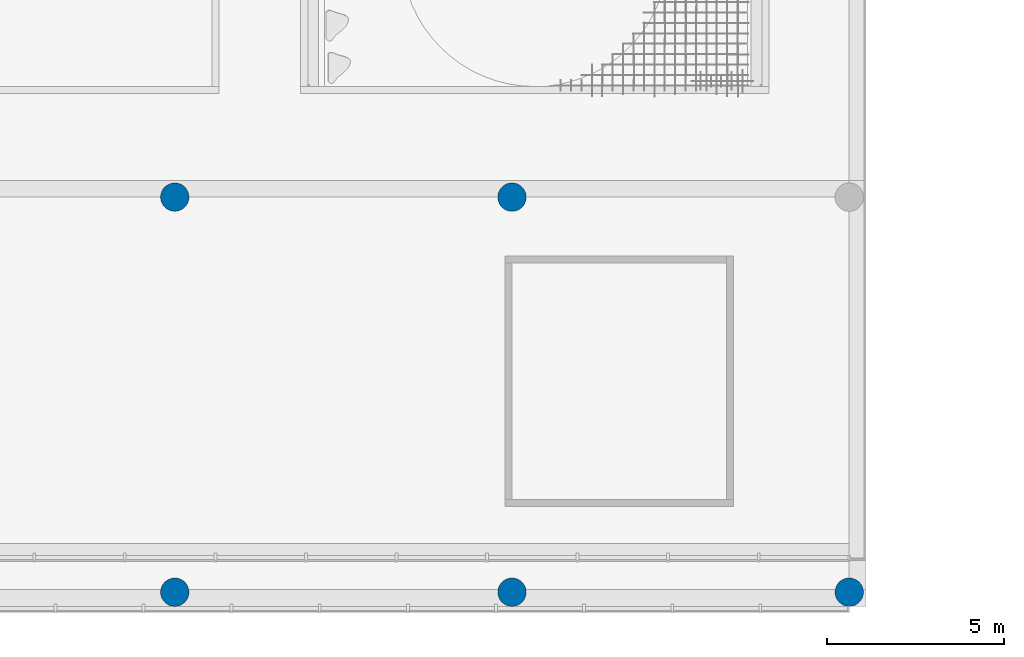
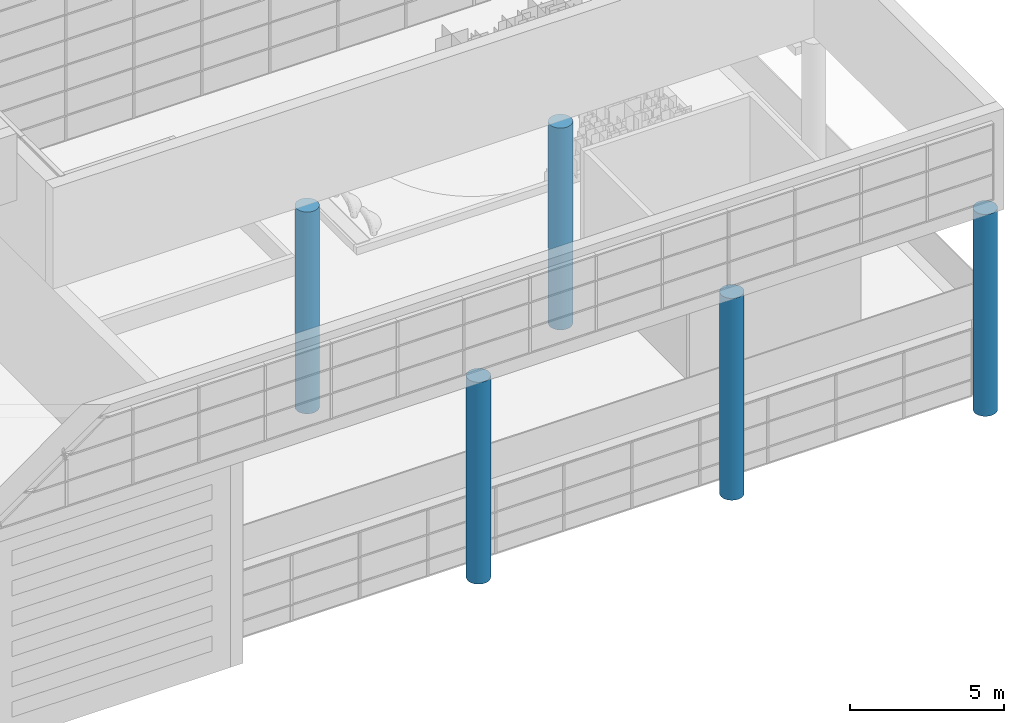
# One storey, part 3 of 105: 5 columns.
"""IFC4 building model written with IfcOpenShell, lengths in millimetres."""

from ifc_helpers import new_model, entity, si_unit, converted_unit, derived_unit, direction, frame, origin_with_axes, place, context, subcontext, project, spatial, triangles, material, element, save


model = new_model("IFC4")

# Units and contexts
model_context = context("Model", 3, precision=1e-05, world=origin_with_axes(), true_north=direction((0.0, 1.0)))
body_context = subcontext(model_context, "Body", "Model", "MODEL_VIEW")
ifc_project = project(units=[si_unit("LENGTHUNIT", "METRE", prefix="MILLI"), si_unit("AREAUNIT", "SQUARE_METRE"), si_unit("VOLUMEUNIT", "CUBIC_METRE"), converted_unit("PLANEANGLEUNIT", "DEGREE", entity("IfcLengthMeasure", 0.017453), si_unit("PLANEANGLEUNIT", "RADIAN"), dimensions=[0, 0, 0, 0, 0, 0, 0]), si_unit("SOLIDANGLEUNIT", "STERADIAN"), si_unit("MASSUNIT", "GRAM"), si_unit("TIMEUNIT", "SECOND"), si_unit("THERMODYNAMICTEMPERATUREUNIT", "DEGREE_CELSIUS"), si_unit("LUMINOUSINTENSITYUNIT", "LUMEN"), si_unit("POWERUNIT", "WATT"), derived_unit("THERMALTRANSMITTANCEUNIT", [(si_unit("POWERUNIT", "WATT"), 1), (si_unit("THERMODYNAMICTEMPERATUREUNIT", "KELVIN"), -1), (si_unit("AREAUNIT", "SQUARE_METRE"), -1)])], contexts=[model_context])

# Site, building, storey
site_placement = place(None, origin_with_axes())
site = spatial("IfcSite", under=ifc_project, at=site_placement, Name="Default Site", CompositionType="ELEMENT")
building_placement = place(site_placement, origin_with_axes())
building = spatial("IfcBuilding", under=site, at=building_placement, Name="Default Building", CompositionType="ELEMENT")
storey_placement = place(building_placement, origin_with_axes())
storey = spatial("IfcBuildingStorey", under=building, at=storey_placement, Name="OG - Story", CompositionType="ELEMENT", Elevation=0.0)

# Columns
ifc_material = material(Name="Tragende Bauteile")
column_1_placement = place(storey_placement, frame((60281.391327, -41059.262838, 0.0), z_axis=(0.0, 0.0, 1.0), x_axis=(1.0, 0.0, 0.0)))
element("IfcColumn", 1, at=column_1_placement, inside=storey, material=ifc_material, Name="Stütze-003", PredefinedType="NOTDEFINED", context=body_context, shape_type="Tessellation", body=[
    triangles([(-399.999, 0.0, 8000.0), (-399.999, 0.0, 0.0), (-396.577, -52.209, 0.0), (-396.577, -52.209, 8000.0), (-396.577, 52.21, 8000.0), (-396.577, 52.21, 0.0), (-386.369, 103.528, 0.0), (-369.551, 153.073, 0.0), (-346.409, 200.0, 0.0), (-317.34, 243.505, 0.0), (-282.842, 282.843, 0.0), (-243.504, 317.341, 0.0), (-199.999, 346.41, 0.0), (-153.072, 369.552, 0.0), (-103.527, 386.37, 0.0), (-52.209, 396.578, 0.0), (0.0, 400.0, 0.0), (52.21, 396.578, 0.0), (103.528, 386.37, 0.0), (153.073, 369.552, 0.0), (200.0, 346.41, 0.0), (243.505, 317.341, 0.0), (282.843, 282.843, 0.0), (317.341, 243.505, 0.0), (346.41, 200.0, 0.0), (369.552, 153.073, 0.0), (386.37, 103.528, 0.0), (396.578, 52.21, 0.0), (400.0, 0.0, 0.0), (396.578, -52.209, 0.0), (386.37, -103.527, 0.0), (369.552, -153.072, 0.0), (346.41, -199.999, 0.0), (317.341, -243.504, 0.0), (282.843, -282.842, 0.0), (243.505, -317.34, 0.0), (200.0, -346.409, 0.0), (153.073, -369.551, 0.0), (103.528, -386.369, 0.0), (52.21, -396.577, 0.0), (0.0, -399.999, 0.0), (-52.209, -396.577, 0.0), (-103.527, -386.369, 0.0), (-153.072, -369.551, 0.0), (-199.999, -346.409, 0.0), (-243.504, -317.34, 0.0), (-282.842, -282.842, 0.0), (-317.34, -243.504, 0.0), (-346.409, -199.999, 0.0), (-369.551, -153.072, 0.0), (-386.369, -103.527, 0.0), (-386.369, -103.527, 8000.0), (-369.551, -153.072, 8000.0), (-346.409, -199.999, 8000.0), (-317.34, -243.504, 8000.0), (-282.842, -282.842, 8000.0), (-243.504, -317.34, 8000.0), (-199.999, -346.409, 8000.0), (-153.072, -369.551, 8000.0), (-103.527, -386.369, 8000.0), (-52.209, -396.577, 8000.0), (0.0, -399.999, 8000.0), (52.21, -396.577, 8000.0), (103.528, -386.369, 8000.0), (153.073, -369.551, 8000.0), (200.0, -346.409, 8000.0), (243.505, -317.34, 8000.0), (282.843, -282.842, 8000.0), (317.341, -243.504, 8000.0), (346.41, -199.999, 8000.0), (369.552, -153.072, 8000.0), (386.37, -103.527, 8000.0), (396.578, -52.209, 8000.0), (400.0, 0.0, 8000.0), (396.578, 52.21, 8000.0), (386.37, 103.528, 8000.0), (369.552, 153.073, 8000.0), (346.41, 200.0, 8000.0), (317.341, 243.505, 8000.0), (282.843, 282.843, 8000.0), (243.505, 317.341, 8000.0), (200.0, 346.41, 8000.0), (153.073, 369.552, 8000.0), (103.528, 386.37, 8000.0), (52.21, 396.578, 8000.0), (0.0, 400.0, 8000.0), (-52.209, 396.578, 8000.0), (-103.527, 386.37, 8000.0), (-153.072, 369.552, 8000.0), (-199.999, 346.41, 8000.0), (-243.504, 317.341, 8000.0), (-282.842, 282.843, 8000.0), (-317.34, 243.505, 8000.0), (-346.409, 200.0, 8000.0), (-369.551, 153.073, 8000.0), (-386.369, 103.528, 8000.0)], [[1, 2, 3], [1, 3, 4], [5, 6, 2], [5, 2, 1], [3, 2, 6], [3, 6, 7], [3, 7, 8], [3, 8, 9], [3, 9, 10], [3, 10, 11], [3, 11, 12], [3, 12, 13], [3, 13, 14], [3, 14, 15], [3, 15, 16], [3, 16, 17], [3, 17, 18], [3, 18, 19], [3, 19, 20], [3, 20, 21], [3, 21, 22], [3, 22, 23], [3, 23, 24], [3, 24, 25], [3, 25, 26], [3, 26, 27], [3, 27, 28], [3, 28, 29], [3, 29, 30], [3, 30, 31], [3, 31, 32], [3, 32, 33], [3, 33, 34], [3, 34, 35], [3, 35, 36], [3, 36, 37], [3, 37, 38], [3, 38, 39], [3, 39, 40], [3, 40, 41], [3, 41, 42], [3, 42, 43], [3, 43, 44], [3, 44, 45], [3, 45, 46], [3, 46, 47], [3, 47, 48], [3, 48, 49], [3, 49, 50], [3, 50, 51], [4, 3, 51], [4, 51, 52], [5, 1, 4], [5, 4, 52], [5, 52, 53], [5, 53, 54], [5, 54, 55], [5, 55, 56], [5, 56, 57], [5, 57, 58], [5, 58, 59], [5, 59, 60], [5, 60, 61], [5, 61, 62], [5, 62, 63], [5, 63, 64], [5, 64, 65], [5, 65, 66], [5, 66, 67], [5, 67, 68], [5, 68, 69], [5, 69, 70], [5, 70, 71], [5, 71, 72], [5, 72, 73], [5, 73, 74], [5, 74, 75], [5, 75, 76], [5, 76, 77], [5, 77, 78], [5, 78, 79], [5, 79, 80], [5, 80, 81], [5, 81, 82], [5, 82, 83], [5, 83, 84], [5, 84, 85], [5, 85, 86], [5, 86, 87], [5, 87, 88], [5, 88, 89], [5, 89, 90], [5, 90, 91], [5, 91, 92], [5, 92, 93], [5, 93, 94], [5, 94, 95], [5, 95, 96], [96, 7, 6], [96, 6, 5], [95, 8, 7], [95, 7, 96], [94, 9, 8], [94, 8, 95], [93, 10, 9], [93, 9, 94], [92, 11, 10], [92, 10, 93], [91, 12, 11], [91, 11, 92], [90, 13, 12], [90, 12, 91], [89, 14, 13], [89, 13, 90], [88, 15, 14], [88, 14, 89], [87, 16, 15], [87, 15, 88], [86, 17, 16], [86, 16, 87], [85, 18, 17], [85, 17, 86], [84, 19, 18], [84, 18, 85], [83, 20, 19], [83, 19, 84], [82, 21, 20], [82, 20, 83], [81, 22, 21], [81, 21, 82], [80, 23, 22], [80, 22, 81], [79, 24, 23], [79, 23, 80], [78, 25, 24], [78, 24, 79], [77, 26, 25], [77, 25, 78], [76, 27, 26], [76, 26, 77], [75, 28, 27], [75, 27, 76], [74, 29, 28], [74, 28, 75], [73, 30, 29], [73, 29, 74], [72, 31, 30], [72, 30, 73], [71, 32, 31], [71, 31, 72], [70, 33, 32], [70, 32, 71], [69, 34, 33], [69, 33, 70], [68, 35, 34], [68, 34, 69], [67, 36, 35], [67, 35, 68], [66, 37, 36], [66, 36, 67], [65, 38, 37], [65, 37, 66], [64, 39, 38], [64, 38, 65], [63, 40, 39], [63, 39, 64], [62, 41, 40], [62, 40, 63], [61, 42, 41], [61, 41, 62], [60, 43, 42], [60, 42, 61], [59, 44, 43], [59, 43, 60], [58, 45, 44], [58, 44, 59], [57, 46, 45], [57, 45, 58], [56, 47, 46], [56, 46, 57], [55, 48, 47], [55, 47, 56], [54, 49, 48], [54, 48, 55], [53, 50, 49], [53, 49, 54], [52, 51, 50], [52, 50, 53]], closed=False),
])
column_2_placement = place(storey_placement, frame((60281.391327, -52189.262838, 0.0), z_axis=(0.0, 0.0, 1.0), x_axis=(1.0, 0.0, 0.0)))
element("IfcColumn", 2, at=column_2_placement, inside=storey, material=ifc_material, Name="Stütze-003", PredefinedType="NOTDEFINED", context=body_context, shape_type="Tessellation", body=[
    triangles([(-399.999, 0.0, 8000.0), (-399.999, 0.0, 0.0), (-396.577, -52.209, 0.0), (-396.577, -52.209, 8000.0), (-396.577, 52.21, 8000.0), (-396.577, 52.21, 0.0), (-386.369, 103.528, 0.0), (-369.551, 153.073, 0.0), (-346.409, 200.0, 0.0), (-317.34, 243.505, 0.0), (-282.842, 282.843, 0.0), (-243.504, 317.341, 0.0), (-199.999, 346.41, 0.0), (-153.072, 369.552, 0.0), (-103.527, 386.37, 0.0), (-52.209, 396.578, 0.0), (0.0, 400.0, 0.0), (52.21, 396.578, 0.0), (103.528, 386.37, 0.0), (153.073, 369.552, 0.0), (200.0, 346.41, 0.0), (243.505, 317.341, 0.0), (282.843, 282.843, 0.0), (317.341, 243.505, 0.0), (346.41, 200.0, 0.0), (369.552, 153.073, 0.0), (386.37, 103.528, 0.0), (396.578, 52.21, 0.0), (400.0, 0.0, 0.0), (396.578, -52.209, 0.0), (386.37, -103.527, 0.0), (369.552, -153.072, 0.0), (346.41, -199.999, 0.0), (317.341, -243.504, 0.0), (282.843, -282.842, 0.0), (243.505, -317.34, 0.0), (200.0, -346.409, 0.0), (153.073, -369.551, 0.0), (103.528, -386.369, 0.0), (52.21, -396.577, 0.0), (0.0, -399.999, 0.0), (-52.209, -396.577, 0.0), (-103.527, -386.369, 0.0), (-153.072, -369.551, 0.0), (-199.999, -346.409, 0.0), (-243.504, -317.34, 0.0), (-282.842, -282.842, 0.0), (-317.34, -243.504, 0.0), (-346.409, -199.999, 0.0), (-369.551, -153.072, 0.0), (-386.369, -103.527, 0.0), (-386.369, -103.527, 8000.0), (-369.551, -153.072, 8000.0), (-346.409, -199.999, 8000.0), (-317.34, -243.504, 8000.0), (-282.842, -282.842, 8000.0), (-243.504, -317.34, 8000.0), (-199.999, -346.409, 8000.0), (-153.072, -369.551, 8000.0), (-103.527, -386.369, 8000.0), (-52.209, -396.577, 8000.0), (0.0, -399.999, 8000.0), (52.21, -396.577, 8000.0), (103.528, -386.369, 8000.0), (153.073, -369.551, 8000.0), (200.0, -346.409, 8000.0), (243.505, -317.34, 8000.0), (282.843, -282.842, 8000.0), (317.341, -243.504, 8000.0), (346.41, -199.999, 8000.0), (369.552, -153.072, 8000.0), (386.37, -103.527, 8000.0), (396.578, -52.209, 8000.0), (400.0, 0.0, 8000.0), (396.578, 52.21, 8000.0), (386.37, 103.528, 8000.0), (369.552, 153.073, 8000.0), (346.41, 200.0, 8000.0), (317.341, 243.505, 8000.0), (282.843, 282.843, 8000.0), (243.505, 317.341, 8000.0), (200.0, 346.41, 8000.0), (153.073, 369.552, 8000.0), (103.528, 386.37, 8000.0), (52.21, 396.578, 8000.0), (0.0, 400.0, 8000.0), (-52.209, 396.578, 8000.0), (-103.527, 386.37, 8000.0), (-153.072, 369.552, 8000.0), (-199.999, 346.41, 8000.0), (-243.504, 317.341, 8000.0), (-282.842, 282.843, 8000.0), (-317.34, 243.505, 8000.0), (-346.409, 200.0, 8000.0), (-369.551, 153.073, 8000.0), (-386.369, 103.528, 8000.0)], [[1, 2, 3], [1, 3, 4], [5, 6, 2], [5, 2, 1], [3, 2, 6], [3, 6, 7], [3, 7, 8], [3, 8, 9], [3, 9, 10], [3, 10, 11], [3, 11, 12], [3, 12, 13], [3, 13, 14], [3, 14, 15], [3, 15, 16], [3, 16, 17], [3, 17, 18], [3, 18, 19], [3, 19, 20], [3, 20, 21], [3, 21, 22], [3, 22, 23], [3, 23, 24], [3, 24, 25], [3, 25, 26], [3, 26, 27], [3, 27, 28], [3, 28, 29], [3, 29, 30], [3, 30, 31], [3, 31, 32], [3, 32, 33], [3, 33, 34], [3, 34, 35], [3, 35, 36], [3, 36, 37], [3, 37, 38], [3, 38, 39], [3, 39, 40], [3, 40, 41], [3, 41, 42], [3, 42, 43], [3, 43, 44], [3, 44, 45], [3, 45, 46], [3, 46, 47], [3, 47, 48], [3, 48, 49], [3, 49, 50], [3, 50, 51], [4, 3, 51], [4, 51, 52], [5, 1, 4], [5, 4, 52], [5, 52, 53], [5, 53, 54], [5, 54, 55], [5, 55, 56], [5, 56, 57], [5, 57, 58], [5, 58, 59], [5, 59, 60], [5, 60, 61], [5, 61, 62], [5, 62, 63], [5, 63, 64], [5, 64, 65], [5, 65, 66], [5, 66, 67], [5, 67, 68], [5, 68, 69], [5, 69, 70], [5, 70, 71], [5, 71, 72], [5, 72, 73], [5, 73, 74], [5, 74, 75], [5, 75, 76], [5, 76, 77], [5, 77, 78], [5, 78, 79], [5, 79, 80], [5, 80, 81], [5, 81, 82], [5, 82, 83], [5, 83, 84], [5, 84, 85], [5, 85, 86], [5, 86, 87], [5, 87, 88], [5, 88, 89], [5, 89, 90], [5, 90, 91], [5, 91, 92], [5, 92, 93], [5, 93, 94], [5, 94, 95], [5, 95, 96], [96, 7, 6], [96, 6, 5], [95, 8, 7], [95, 7, 96], [94, 9, 8], [94, 8, 95], [93, 10, 9], [93, 9, 94], [92, 11, 10], [92, 10, 93], [91, 12, 11], [91, 11, 92], [90, 13, 12], [90, 12, 91], [89, 14, 13], [89, 13, 90], [88, 15, 14], [88, 14, 89], [87, 16, 15], [87, 15, 88], [86, 17, 16], [86, 16, 87], [85, 18, 17], [85, 17, 86], [84, 19, 18], [84, 18, 85], [83, 20, 19], [83, 19, 84], [82, 21, 20], [82, 20, 83], [81, 22, 21], [81, 21, 82], [80, 23, 22], [80, 22, 81], [79, 24, 23], [79, 23, 80], [78, 25, 24], [78, 24, 79], [77, 26, 25], [77, 25, 78], [76, 27, 26], [76, 26, 77], [75, 28, 27], [75, 27, 76], [74, 29, 28], [74, 28, 75], [73, 30, 29], [73, 29, 74], [72, 31, 30], [72, 30, 73], [71, 32, 31], [71, 31, 72], [70, 33, 32], [70, 32, 71], [69, 34, 33], [69, 33, 70], [68, 35, 34], [68, 34, 69], [67, 36, 35], [67, 35, 68], [66, 37, 36], [66, 36, 67], [65, 38, 37], [65, 37, 66], [64, 39, 38], [64, 38, 65], [63, 40, 39], [63, 39, 64], [62, 41, 40], [62, 40, 63], [61, 42, 41], [61, 41, 62], [60, 43, 42], [60, 42, 61], [59, 44, 43], [59, 43, 60], [58, 45, 44], [58, 44, 59], [57, 46, 45], [57, 45, 58], [56, 47, 46], [56, 46, 57], [55, 48, 47], [55, 47, 56], [54, 49, 48], [54, 48, 55], [53, 50, 49], [53, 49, 54], [52, 51, 50], [52, 50, 53]], closed=False),
])
column_3_placement = place(storey_placement, frame((69781.391327, -52189.262838, 0.0), z_axis=(0.0, 0.0, 1.0), x_axis=(1.0, 0.0, 0.0)))
element("IfcColumn", 3, at=column_3_placement, inside=storey, material=ifc_material, Name="Stütze-002", PredefinedType="NOTDEFINED", context=body_context, shape_type="Tessellation", body=[
    triangles([(-399.999, 0.0, 8000.0), (-399.999, 0.0, 0.0), (-396.577, -52.209, 0.0), (-396.577, -52.209, 8000.0), (-396.577, 52.21, 8000.0), (-396.577, 52.21, 0.0), (-386.369, 103.528, 0.0), (-369.551, 153.073, 0.0), (-346.409, 200.0, 0.0), (-317.34, 243.505, 0.0), (-282.842, 282.843, 0.0), (-243.504, 317.341, 0.0), (-199.999, 346.41, 0.0), (-153.072, 369.552, 0.0), (-103.527, 386.37, 0.0), (-52.209, 396.578, 0.0), (0.0, 400.0, 0.0), (52.21, 396.578, 0.0), (103.528, 386.37, 0.0), (153.073, 369.552, 0.0), (200.0, 346.41, 0.0), (243.505, 317.341, 0.0), (282.843, 282.843, 0.0), (317.341, 243.505, 0.0), (346.41, 200.0, 0.0), (369.552, 153.073, 0.0), (386.37, 103.528, 0.0), (396.578, 52.21, 0.0), (400.0, 0.0, 0.0), (396.578, -52.209, 0.0), (386.37, -103.527, 0.0), (369.552, -153.072, 0.0), (346.41, -199.999, 0.0), (317.341, -243.504, 0.0), (282.843, -282.842, 0.0), (243.505, -317.34, 0.0), (200.0, -346.409, 0.0), (153.073, -369.551, 0.0), (103.528, -386.369, 0.0), (52.21, -396.577, 0.0), (0.0, -399.999, 0.0), (-52.209, -396.577, 0.0), (-103.527, -386.369, 0.0), (-153.072, -369.551, 0.0), (-199.999, -346.409, 0.0), (-243.504, -317.34, 0.0), (-282.842, -282.842, 0.0), (-317.34, -243.504, 0.0), (-346.409, -199.999, 0.0), (-369.551, -153.072, 0.0), (-386.369, -103.527, 0.0), (-386.369, -103.527, 8000.0), (-369.551, -153.072, 8000.0), (-346.409, -199.999, 8000.0), (-317.34, -243.504, 8000.0), (-282.842, -282.842, 8000.0), (-243.504, -317.34, 8000.0), (-199.999, -346.409, 8000.0), (-153.072, -369.551, 8000.0), (-103.527, -386.369, 8000.0), (-52.209, -396.577, 8000.0), (0.0, -399.999, 8000.0), (52.21, -396.577, 8000.0), (103.528, -386.369, 8000.0), (153.073, -369.551, 8000.0), (200.0, -346.409, 8000.0), (243.505, -317.34, 8000.0), (282.843, -282.842, 8000.0), (317.341, -243.504, 8000.0), (346.41, -199.999, 8000.0), (369.552, -153.072, 8000.0), (386.37, -103.527, 8000.0), (396.578, -52.209, 8000.0), (400.0, 0.0, 8000.0), (396.578, 52.21, 8000.0), (386.37, 103.528, 8000.0), (369.552, 153.073, 8000.0), (346.41, 200.0, 8000.0), (317.341, 243.505, 8000.0), (282.843, 282.843, 8000.0), (243.505, 317.341, 8000.0), (200.0, 346.41, 8000.0), (153.073, 369.552, 8000.0), (103.528, 386.37, 8000.0), (52.21, 396.578, 8000.0), (0.0, 400.0, 8000.0), (-52.209, 396.578, 8000.0), (-103.527, 386.37, 8000.0), (-153.072, 369.552, 8000.0), (-199.999, 346.41, 8000.0), (-243.504, 317.341, 8000.0), (-282.842, 282.843, 8000.0), (-317.34, 243.505, 8000.0), (-346.409, 200.0, 8000.0), (-369.551, 153.073, 8000.0), (-386.369, 103.528, 8000.0)], [[1, 2, 3], [1, 3, 4], [5, 6, 2], [5, 2, 1], [3, 2, 6], [3, 6, 7], [3, 7, 8], [3, 8, 9], [3, 9, 10], [3, 10, 11], [3, 11, 12], [3, 12, 13], [3, 13, 14], [3, 14, 15], [3, 15, 16], [3, 16, 17], [3, 17, 18], [3, 18, 19], [3, 19, 20], [3, 20, 21], [3, 21, 22], [3, 22, 23], [3, 23, 24], [3, 24, 25], [3, 25, 26], [3, 26, 27], [3, 27, 28], [3, 28, 29], [3, 29, 30], [3, 30, 31], [3, 31, 32], [3, 32, 33], [3, 33, 34], [3, 34, 35], [3, 35, 36], [3, 36, 37], [3, 37, 38], [3, 38, 39], [3, 39, 40], [3, 40, 41], [3, 41, 42], [3, 42, 43], [3, 43, 44], [3, 44, 45], [3, 45, 46], [3, 46, 47], [3, 47, 48], [3, 48, 49], [3, 49, 50], [3, 50, 51], [4, 3, 51], [4, 51, 52], [5, 1, 4], [5, 4, 52], [5, 52, 53], [5, 53, 54], [5, 54, 55], [5, 55, 56], [5, 56, 57], [5, 57, 58], [5, 58, 59], [5, 59, 60], [5, 60, 61], [5, 61, 62], [5, 62, 63], [5, 63, 64], [5, 64, 65], [5, 65, 66], [5, 66, 67], [5, 67, 68], [5, 68, 69], [5, 69, 70], [5, 70, 71], [5, 71, 72], [5, 72, 73], [5, 73, 74], [5, 74, 75], [5, 75, 76], [5, 76, 77], [5, 77, 78], [5, 78, 79], [5, 79, 80], [5, 80, 81], [5, 81, 82], [5, 82, 83], [5, 83, 84], [5, 84, 85], [5, 85, 86], [5, 86, 87], [5, 87, 88], [5, 88, 89], [5, 89, 90], [5, 90, 91], [5, 91, 92], [5, 92, 93], [5, 93, 94], [5, 94, 95], [5, 95, 96], [96, 7, 6], [96, 6, 5], [95, 8, 7], [95, 7, 96], [94, 9, 8], [94, 8, 95], [93, 10, 9], [93, 9, 94], [92, 11, 10], [92, 10, 93], [91, 12, 11], [91, 11, 92], [90, 13, 12], [90, 12, 91], [89, 14, 13], [89, 13, 90], [88, 15, 14], [88, 14, 89], [87, 16, 15], [87, 15, 88], [86, 17, 16], [86, 16, 87], [85, 18, 17], [85, 17, 86], [84, 19, 18], [84, 18, 85], [83, 20, 19], [83, 19, 84], [82, 21, 20], [82, 20, 83], [81, 22, 21], [81, 21, 82], [80, 23, 22], [80, 22, 81], [79, 24, 23], [79, 23, 80], [78, 25, 24], [78, 24, 79], [77, 26, 25], [77, 25, 78], [76, 27, 26], [76, 26, 77], [75, 28, 27], [75, 27, 76], [74, 29, 28], [74, 28, 75], [73, 30, 29], [73, 29, 74], [72, 31, 30], [72, 30, 73], [71, 32, 31], [71, 31, 72], [70, 33, 32], [70, 32, 71], [69, 34, 33], [69, 33, 70], [68, 35, 34], [68, 34, 69], [67, 36, 35], [67, 35, 68], [66, 37, 36], [66, 36, 67], [65, 38, 37], [65, 37, 66], [64, 39, 38], [64, 38, 65], [63, 40, 39], [63, 39, 64], [62, 41, 40], [62, 40, 63], [61, 42, 41], [61, 41, 62], [60, 43, 42], [60, 42, 61], [59, 44, 43], [59, 43, 60], [58, 45, 44], [58, 44, 59], [57, 46, 45], [57, 45, 58], [56, 47, 46], [56, 46, 57], [55, 48, 47], [55, 47, 56], [54, 49, 48], [54, 48, 55], [53, 50, 49], [53, 49, 54], [52, 51, 50], [52, 50, 53]], closed=False),
])
column_4_placement = place(storey_placement, frame((79281.391327, -52189.262838, 0.0), z_axis=(0.0, 0.0, 1.0), x_axis=(1.0, 0.0, 0.0)))
element("IfcColumn", 4, at=column_4_placement, inside=storey, material=ifc_material, Name="Stütze-001", PredefinedType="NOTDEFINED", context=body_context, shape_type="Tessellation", body=[
    triangles([(-399.999, 0.0, 8000.0), (-399.999, 0.0, 0.0), (-396.577, -52.209, 0.0), (-396.577, -52.209, 8000.0), (-396.577, 52.21, 8000.0), (-396.577, 52.21, 0.0), (-386.369, 103.528, 0.0), (-369.551, 153.073, 0.0), (-346.409, 200.0, 0.0), (-317.34, 243.505, 0.0), (-282.842, 282.843, 0.0), (-243.504, 317.341, 0.0), (-199.999, 346.41, 0.0), (-153.072, 369.552, 0.0), (-103.527, 386.37, 0.0), (-52.209, 396.578, 0.0), (0.0, 400.0, 0.0), (52.21, 396.578, 0.0), (103.528, 386.37, 0.0), (153.073, 369.552, 0.0), (200.0, 346.41, 0.0), (243.505, 317.341, 0.0), (282.843, 282.843, 0.0), (317.341, 243.505, 0.0), (346.41, 200.0, 0.0), (369.552, 153.073, 0.0), (386.37, 103.528, 0.0), (396.578, 52.21, 0.0), (400.0, 0.0, 0.0), (396.578, -52.209, 0.0), (386.37, -103.527, 0.0), (369.552, -153.072, 0.0), (346.41, -199.999, 0.0), (317.341, -243.504, 0.0), (282.843, -282.842, 0.0), (243.505, -317.34, 0.0), (200.0, -346.409, 0.0), (153.073, -369.551, 0.0), (103.528, -386.369, 0.0), (52.21, -396.577, 0.0), (0.0, -399.999, 0.0), (-52.209, -396.577, 0.0), (-103.527, -386.369, 0.0), (-153.072, -369.551, 0.0), (-199.999, -346.409, 0.0), (-243.504, -317.34, 0.0), (-282.842, -282.842, 0.0), (-317.34, -243.504, 0.0), (-346.409, -199.999, 0.0), (-369.551, -153.072, 0.0), (-386.369, -103.527, 0.0), (-386.369, -103.527, 8000.0), (-369.551, -153.072, 8000.0), (-346.409, -199.999, 8000.0), (-317.34, -243.504, 8000.0), (-282.842, -282.842, 8000.0), (-243.504, -317.34, 8000.0), (-199.999, -346.409, 8000.0), (-153.072, -369.551, 8000.0), (-103.527, -386.369, 8000.0), (-52.209, -396.577, 8000.0), (0.0, -399.999, 8000.0), (52.21, -396.577, 8000.0), (103.528, -386.369, 8000.0), (153.073, -369.551, 8000.0), (200.0, -346.409, 8000.0), (243.505, -317.34, 8000.0), (282.843, -282.842, 8000.0), (317.341, -243.504, 8000.0), (346.41, -199.999, 8000.0), (369.552, -153.072, 8000.0), (386.37, -103.527, 8000.0), (396.578, -52.209, 8000.0), (400.0, 0.0, 8000.0), (396.578, 52.21, 8000.0), (386.37, 103.528, 8000.0), (369.552, 153.073, 8000.0), (346.41, 200.0, 8000.0), (317.341, 243.505, 8000.0), (282.843, 282.843, 8000.0), (243.505, 317.341, 8000.0), (200.0, 346.41, 8000.0), (153.073, 369.552, 8000.0), (103.528, 386.37, 8000.0), (52.21, 396.578, 8000.0), (0.0, 400.0, 8000.0), (-52.209, 396.578, 8000.0), (-103.527, 386.37, 8000.0), (-153.072, 369.552, 8000.0), (-199.999, 346.41, 8000.0), (-243.504, 317.341, 8000.0), (-282.842, 282.843, 8000.0), (-317.34, 243.505, 8000.0), (-346.409, 200.0, 8000.0), (-369.551, 153.073, 8000.0), (-386.369, 103.528, 8000.0)], [[1, 2, 3], [1, 3, 4], [5, 6, 2], [5, 2, 1], [3, 2, 6], [3, 6, 7], [3, 7, 8], [3, 8, 9], [3, 9, 10], [3, 10, 11], [3, 11, 12], [3, 12, 13], [3, 13, 14], [3, 14, 15], [3, 15, 16], [3, 16, 17], [3, 17, 18], [3, 18, 19], [3, 19, 20], [3, 20, 21], [3, 21, 22], [3, 22, 23], [3, 23, 24], [3, 24, 25], [3, 25, 26], [3, 26, 27], [3, 27, 28], [3, 28, 29], [3, 29, 30], [3, 30, 31], [3, 31, 32], [3, 32, 33], [3, 33, 34], [3, 34, 35], [3, 35, 36], [3, 36, 37], [3, 37, 38], [3, 38, 39], [3, 39, 40], [3, 40, 41], [3, 41, 42], [3, 42, 43], [3, 43, 44], [3, 44, 45], [3, 45, 46], [3, 46, 47], [3, 47, 48], [3, 48, 49], [3, 49, 50], [3, 50, 51], [4, 3, 51], [4, 51, 52], [5, 1, 4], [5, 4, 52], [5, 52, 53], [5, 53, 54], [5, 54, 55], [5, 55, 56], [5, 56, 57], [5, 57, 58], [5, 58, 59], [5, 59, 60], [5, 60, 61], [5, 61, 62], [5, 62, 63], [5, 63, 64], [5, 64, 65], [5, 65, 66], [5, 66, 67], [5, 67, 68], [5, 68, 69], [5, 69, 70], [5, 70, 71], [5, 71, 72], [5, 72, 73], [5, 73, 74], [5, 74, 75], [5, 75, 76], [5, 76, 77], [5, 77, 78], [5, 78, 79], [5, 79, 80], [5, 80, 81], [5, 81, 82], [5, 82, 83], [5, 83, 84], [5, 84, 85], [5, 85, 86], [5, 86, 87], [5, 87, 88], [5, 88, 89], [5, 89, 90], [5, 90, 91], [5, 91, 92], [5, 92, 93], [5, 93, 94], [5, 94, 95], [5, 95, 96], [96, 7, 6], [96, 6, 5], [95, 8, 7], [95, 7, 96], [94, 9, 8], [94, 8, 95], [93, 10, 9], [93, 9, 94], [92, 11, 10], [92, 10, 93], [91, 12, 11], [91, 11, 92], [90, 13, 12], [90, 12, 91], [89, 14, 13], [89, 13, 90], [88, 15, 14], [88, 14, 89], [87, 16, 15], [87, 15, 88], [86, 17, 16], [86, 16, 87], [85, 18, 17], [85, 17, 86], [84, 19, 18], [84, 18, 85], [83, 20, 19], [83, 19, 84], [82, 21, 20], [82, 20, 83], [81, 22, 21], [81, 21, 82], [80, 23, 22], [80, 22, 81], [79, 24, 23], [79, 23, 80], [78, 25, 24], [78, 24, 79], [77, 26, 25], [77, 25, 78], [76, 27, 26], [76, 26, 77], [75, 28, 27], [75, 27, 76], [74, 29, 28], [74, 28, 75], [73, 30, 29], [73, 29, 74], [72, 31, 30], [72, 30, 73], [71, 32, 31], [71, 31, 72], [70, 33, 32], [70, 32, 71], [69, 34, 33], [69, 33, 70], [68, 35, 34], [68, 34, 69], [67, 36, 35], [67, 35, 68], [66, 37, 36], [66, 36, 67], [65, 38, 37], [65, 37, 66], [64, 39, 38], [64, 38, 65], [63, 40, 39], [63, 39, 64], [62, 41, 40], [62, 40, 63], [61, 42, 41], [61, 41, 62], [60, 43, 42], [60, 42, 61], [59, 44, 43], [59, 43, 60], [58, 45, 44], [58, 44, 59], [57, 46, 45], [57, 45, 58], [56, 47, 46], [56, 46, 57], [55, 48, 47], [55, 47, 56], [54, 49, 48], [54, 48, 55], [53, 50, 49], [53, 49, 54], [52, 51, 50], [52, 50, 53]], closed=False),
])
column_5_placement = place(storey_placement, frame((69781.391327, -41059.262838, 0.0), z_axis=(0.0, 0.0, 1.0), x_axis=(1.0, 0.0, 0.0)))
element("IfcColumn", 5, at=column_5_placement, inside=storey, material=ifc_material, Name="Stütze-002", PredefinedType="NOTDEFINED", context=body_context, shape_type="Tessellation", body=[
    triangles([(-399.999, 0.0, 8000.0), (-399.999, 0.0, 0.0), (-396.577, -52.209, 0.0), (-396.577, -52.209, 8000.0), (-396.577, 52.21, 8000.0), (-396.577, 52.21, 0.0), (-386.369, 103.528, 0.0), (-369.551, 153.073, 0.0), (-346.409, 200.0, 0.0), (-317.34, 243.505, 0.0), (-282.842, 282.843, 0.0), (-243.504, 317.341, 0.0), (-199.999, 346.41, 0.0), (-153.072, 369.552, 0.0), (-103.527, 386.37, 0.0), (-52.209, 396.578, 0.0), (0.0, 400.0, 0.0), (52.21, 396.578, 0.0), (103.528, 386.37, 0.0), (153.073, 369.552, 0.0), (200.0, 346.41, 0.0), (243.505, 317.341, 0.0), (282.843, 282.843, 0.0), (317.341, 243.505, 0.0), (346.41, 200.0, 0.0), (369.552, 153.073, 0.0), (386.37, 103.528, 0.0), (396.578, 52.21, 0.0), (400.0, 0.0, 0.0), (396.578, -52.209, 0.0), (386.37, -103.527, 0.0), (369.552, -153.072, 0.0), (346.41, -199.999, 0.0), (317.341, -243.504, 0.0), (282.843, -282.842, 0.0), (243.505, -317.34, 0.0), (200.0, -346.409, 0.0), (153.073, -369.551, 0.0), (103.528, -386.369, 0.0), (52.21, -396.577, 0.0), (0.0, -399.999, 0.0), (-52.209, -396.577, 0.0), (-103.527, -386.369, 0.0), (-153.072, -369.551, 0.0), (-199.999, -346.409, 0.0), (-243.504, -317.34, 0.0), (-282.842, -282.842, 0.0), (-317.34, -243.504, 0.0), (-346.409, -199.999, 0.0), (-369.551, -153.072, 0.0), (-386.369, -103.527, 0.0), (-386.369, -103.527, 8000.0), (-369.551, -153.072, 8000.0), (-346.409, -199.999, 8000.0), (-317.34, -243.504, 8000.0), (-282.842, -282.842, 8000.0), (-243.504, -317.34, 8000.0), (-199.999, -346.409, 8000.0), (-153.072, -369.551, 8000.0), (-103.527, -386.369, 8000.0), (-52.209, -396.577, 8000.0), (0.0, -399.999, 8000.0), (52.21, -396.577, 8000.0), (103.528, -386.369, 8000.0), (153.073, -369.551, 8000.0), (200.0, -346.409, 8000.0), (243.505, -317.34, 8000.0), (282.843, -282.842, 8000.0), (317.341, -243.504, 8000.0), (346.41, -199.999, 8000.0), (369.552, -153.072, 8000.0), (386.37, -103.527, 8000.0), (396.578, -52.209, 8000.0), (400.0, 0.0, 8000.0), (396.578, 52.21, 8000.0), (386.37, 103.528, 8000.0), (369.552, 153.073, 8000.0), (346.41, 200.0, 8000.0), (317.341, 243.505, 8000.0), (282.843, 282.843, 8000.0), (243.505, 317.341, 8000.0), (200.0, 346.41, 8000.0), (153.073, 369.552, 8000.0), (103.528, 386.37, 8000.0), (52.21, 396.578, 8000.0), (0.0, 400.0, 8000.0), (-52.209, 396.578, 8000.0), (-103.527, 386.37, 8000.0), (-153.072, 369.552, 8000.0), (-199.999, 346.41, 8000.0), (-243.504, 317.341, 8000.0), (-282.842, 282.843, 8000.0), (-317.34, 243.505, 8000.0), (-346.409, 200.0, 8000.0), (-369.551, 153.073, 8000.0), (-386.369, 103.528, 8000.0)], [[1, 2, 3], [1, 3, 4], [5, 6, 2], [5, 2, 1], [3, 2, 6], [3, 6, 7], [3, 7, 8], [3, 8, 9], [3, 9, 10], [3, 10, 11], [3, 11, 12], [3, 12, 13], [3, 13, 14], [3, 14, 15], [3, 15, 16], [3, 16, 17], [3, 17, 18], [3, 18, 19], [3, 19, 20], [3, 20, 21], [3, 21, 22], [3, 22, 23], [3, 23, 24], [3, 24, 25], [3, 25, 26], [3, 26, 27], [3, 27, 28], [3, 28, 29], [3, 29, 30], [3, 30, 31], [3, 31, 32], [3, 32, 33], [3, 33, 34], [3, 34, 35], [3, 35, 36], [3, 36, 37], [3, 37, 38], [3, 38, 39], [3, 39, 40], [3, 40, 41], [3, 41, 42], [3, 42, 43], [3, 43, 44], [3, 44, 45], [3, 45, 46], [3, 46, 47], [3, 47, 48], [3, 48, 49], [3, 49, 50], [3, 50, 51], [4, 3, 51], [4, 51, 52], [5, 1, 4], [5, 4, 52], [5, 52, 53], [5, 53, 54], [5, 54, 55], [5, 55, 56], [5, 56, 57], [5, 57, 58], [5, 58, 59], [5, 59, 60], [5, 60, 61], [5, 61, 62], [5, 62, 63], [5, 63, 64], [5, 64, 65], [5, 65, 66], [5, 66, 67], [5, 67, 68], [5, 68, 69], [5, 69, 70], [5, 70, 71], [5, 71, 72], [5, 72, 73], [5, 73, 74], [5, 74, 75], [5, 75, 76], [5, 76, 77], [5, 77, 78], [5, 78, 79], [5, 79, 80], [5, 80, 81], [5, 81, 82], [5, 82, 83], [5, 83, 84], [5, 84, 85], [5, 85, 86], [5, 86, 87], [5, 87, 88], [5, 88, 89], [5, 89, 90], [5, 90, 91], [5, 91, 92], [5, 92, 93], [5, 93, 94], [5, 94, 95], [5, 95, 96], [96, 7, 6], [96, 6, 5], [95, 8, 7], [95, 7, 96], [94, 9, 8], [94, 8, 95], [93, 10, 9], [93, 9, 94], [92, 11, 10], [92, 10, 93], [91, 12, 11], [91, 11, 92], [90, 13, 12], [90, 12, 91], [89, 14, 13], [89, 13, 90], [88, 15, 14], [88, 14, 89], [87, 16, 15], [87, 15, 88], [86, 17, 16], [86, 16, 87], [85, 18, 17], [85, 17, 86], [84, 19, 18], [84, 18, 85], [83, 20, 19], [83, 19, 84], [82, 21, 20], [82, 20, 83], [81, 22, 21], [81, 21, 82], [80, 23, 22], [80, 22, 81], [79, 24, 23], [79, 23, 80], [78, 25, 24], [78, 24, 79], [77, 26, 25], [77, 25, 78], [76, 27, 26], [76, 26, 77], [75, 28, 27], [75, 27, 76], [74, 29, 28], [74, 28, 75], [73, 30, 29], [73, 29, 74], [72, 31, 30], [72, 30, 73], [71, 32, 31], [71, 31, 72], [70, 33, 32], [70, 32, 71], [69, 34, 33], [69, 33, 70], [68, 35, 34], [68, 34, 69], [67, 36, 35], [67, 35, 68], [66, 37, 36], [66, 36, 67], [65, 38, 37], [65, 37, 66], [64, 39, 38], [64, 38, 65], [63, 40, 39], [63, 39, 64], [62, 41, 40], [62, 40, 63], [61, 42, 41], [61, 41, 62], [60, 43, 42], [60, 42, 61], [59, 44, 43], [59, 43, 60], [58, 45, 44], [58, 44, 59], [57, 46, 45], [57, 45, 58], [56, 47, 46], [56, 46, 57], [55, 48, 47], [55, 47, 56], [54, 49, 48], [54, 48, 55], [53, 50, 49], [53, 49, 54], [52, 51, 50], [52, 50, 53]], closed=False),
])

save(model, "model.ifc")
